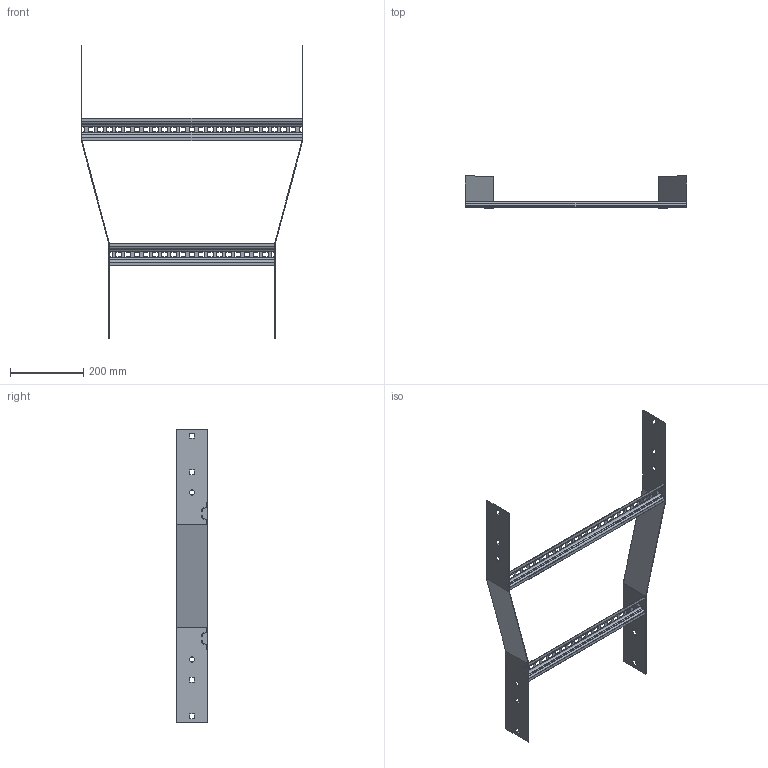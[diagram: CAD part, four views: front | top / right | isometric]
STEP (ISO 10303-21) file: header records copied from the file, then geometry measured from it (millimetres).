
FILE_DESCRIPTION (( 'STEP AP203' ), '1' );
FILE_NAME ('N2 SR600450.STEP', '2024-08-27T22:26:05', ( '' ), ( '' ), 'SwSTEP 2.0', 'SolidWorks 2023', '' );
FILE_SCHEMA (( 'CONFIG_CONTROL_DESIGN' ));
Length unit declared in the file: millimetre
Products named in the file (4): N2 SR600450; Ladder Rung_Ladder Rung -  600mm; Ladder Rung_Ladder Rung -  450mm; N2 Reducer side plate_SR450x600
Assembly tree (4 placements, depth 2):
  N2 SR600450
    N2 Reducer side plate_SR450x600  x2
    Ladder Rung_Ladder Rung -  450mm
    Ladder Rung_Ladder Rung -  600mm
Bounding box: 604 x 87 x 800 mm (x, y, z)
Volume: 390335.3 mm3; surface area: 434290 mm2
Topology: 4 solids, 4 shells, 336 faces, 888 edges, 560 vertices
Faces by surface type: plane 304, cylinder 32
Entity records: 9526 total; most frequent: CARTESIAN_POINT 1581, ORIENTED_EDGE 1568, DIRECTION 1434, EDGE_CURVE 784, LINE 736, VECTOR 736, VERTEX_POINT 496, EDGE_LOOP 386
